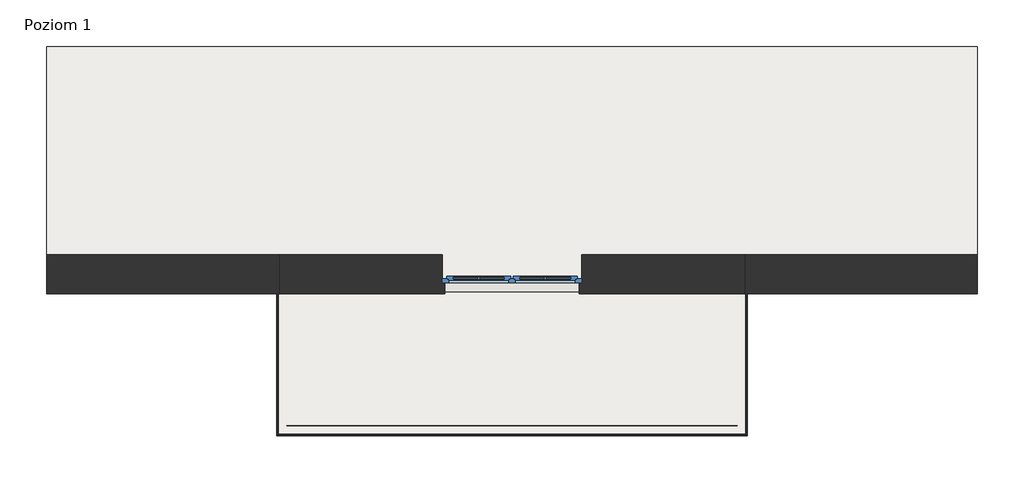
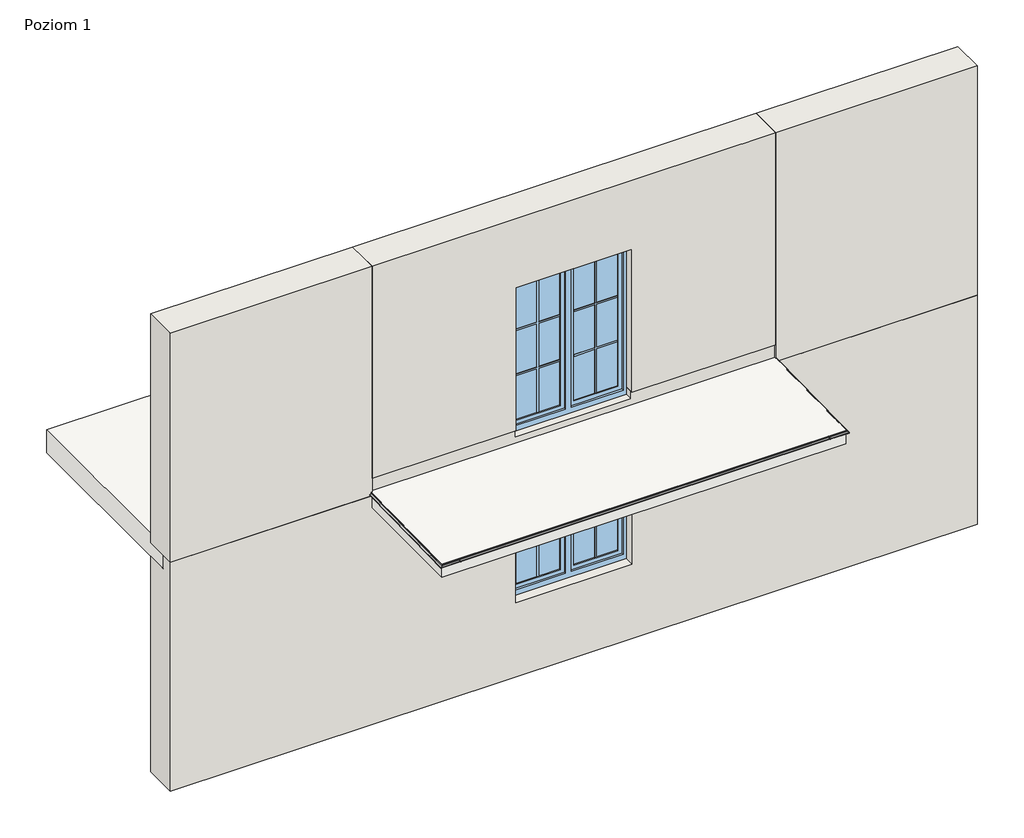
# One storey, part 1 of 4: 5 proxies, 5 walls, 3 slabs, 2 windows.
"""IFC4 building model written with IfcOpenShell, lengths in millimetres."""

from ifc_helpers import new_model, si_unit, origin, place, context, project, spatial, faceted_brep, transform, mapped, element, save
from components import generic_models_88e95f6f, generic_models_93ca83c9, k30_aa9466e5, k30_8c66ed92, k30_8aa74587, window_150x150_51b7f79a, window_150x200_12b14935

model = new_model("IFC4")

# Units and contexts
model_context = context("Model", 3, world=origin())
ifc_project = project(units=[si_unit("LENGTHUNIT", "METRE", prefix="MILLI")], contexts=[model_context])

# Site, building, storey
site = spatial("IfcSite", under=ifc_project)
building = spatial("IfcBuilding", under=site)
storey = spatial("IfcBuildingStorey", under=building, Name="Poziom 1", Elevation=0.0)

# Proxies
placement = place(None, origin())
generic_models_shape = generic_models_88e95f6f(model_context)
element("IfcBuildingElementProxy", 1, Name="Odbojnik przyścienny K30 : Odbojnik przyścienny K30", ObjectType="Odbojnik przyścienny K30 : Odbojnik przyścienny K30", at=placement, inside=storey, context=model_context, shape_type="MappedRepresentation", body=[
    mapped(generic_models_shape, transform((-107871.4787519, 54780.2706498, -102.8920951), x_axis=(0.0, -0.9998044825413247, -0.019773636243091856), y_axis=(1.0000000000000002, 0.0, 0.0), z_axis=(0.0, -0.01977363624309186, 0.9998044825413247))),
])
generic_models_2_shape = generic_models_93ca83c9(model_context)
element("IfcBuildingElementProxy", 2, Name="Odbojnik przyścienny K30 : Odbojnik przyścienny K30", ObjectType="Odbojnik przyścienny K30 : Odbojnik przyścienny K30", at=placement, inside=storey, context=model_context, shape_type="MappedRepresentation", body=[
    mapped(generic_models_2_shape, transform((-112898.2079317, 54781.1897285, -102.873918), x_axis=(0.0, -0.9998044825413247, -0.019773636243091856), y_axis=(1.0000000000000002, 0.0, 0.0), z_axis=(0.0, -0.01977363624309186, 0.9998044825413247))),
])
k30_shape = k30_aa9466e5(model_context)
element("IfcBuildingElementProxy", 3, Name="K30 Profil okapowy prosty : K30", ObjectType="K30 Profil okapowy prosty : K30", at=placement, inside=storey, context=model_context, shape_type="MappedRepresentation", body=[
    mapped(k30_shape, transform((-112894.8433418, 53271.9866735, -109.0), x_axis=(1.0, 0.0, 0.0), y_axis=(0.0, 0.9998044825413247, 0.01977363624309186), z_axis=(0.0, -0.01977363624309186, 0.9998044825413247))),
])
k30_2_shape = k30_8c66ed92(model_context)
element("IfcBuildingElementProxy", 4, Name="K30 Profil okapowy prosty : K30", ObjectType="K30 Profil okapowy prosty : K30", at=placement, inside=storey, context=model_context, shape_type="MappedRepresentation", body=[
    mapped(k30_2_shape, transform((-107874.8433418, 53491.9436597, -104.6498), x_axis=(0.0, 0.9998044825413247, 0.019773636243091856), y_axis=(-1.0000000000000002, 0.0, 0.0), z_axis=(0.0, -0.01977363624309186, 0.9998044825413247))),
])
k30_3_shape = k30_8aa74587(model_context)
element("IfcBuildingElementProxy", 5, Name="K30 Profil okapowy prosty : K30", ObjectType="K30 Profil okapowy prosty : K30", at=placement, inside=storey, context=model_context, shape_type="MappedRepresentation", body=[
    mapped(k30_3_shape, transform((-112894.8433418, 53491.9436597, -104.6498), x_axis=(0.0, 0.9998044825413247, 0.019773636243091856), y_axis=(-1.0000000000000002, 0.0, 0.0), z_axis=(0.0, -0.01977363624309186, 0.9998044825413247))),
])

# Slabs
element("IfcSlab", 6, ObjectType="Balkon - wykończenie - posadzka ceramiczna", at=placement, inside=storey, context=model_context, shape_type="Brep", body=[
    faceted_brep([(-112894.8433418, 53271.9866735, -125.0), (-112894.8433418, 53271.9866735, -109.0), (-112894.8433418, 54889.9866735, -77.0), (-112894.8433418, 54889.9866735, -93.0), (-112884.8433418, 54889.9866735, -77.0), (-107884.8433418, 54889.9866735, -77.0), (-107874.8433418, 54889.9866735, -77.0), (-107874.8433418, 54889.9866735, -93.0), (-107874.8433418, 53271.9866735, -125.0), (-107874.8433418, 53271.9866735, -109.0)], [[[0, 1, 2, 3]], [[3, 2, 4, 5, 6, 7]], [[8, 9, 1, 0]], [[7, 6, 9, 8]], [[9, 6, 5, 4, 2, 1]], [[8, 0, 3, 7]]]),
])
element("IfcSlab", 7, ObjectType="Balkon - konstrukcja", at=placement, inside=storey, context=model_context, shape_type="Brep", body=[
    faceted_brep([(-112884.8433418, 53281.9866735, -285.0), (-112884.8433418, 54781.9866735, -285.0), (-112884.8433418, 54889.9866735, -285.0), (-107884.8433418, 54889.9866735, -285.0), (-107884.8433418, 54781.9866735, -285.0), (-107884.8433418, 53281.9866735, -285.0), (-112884.8433418, 53281.9866735, -125.0), (-112884.8433418, 54889.9866735, -93.0), (-112884.8433418, 54889.9866735, -125.0), (-107884.8433418, 54889.9866735, -93.0), (-107884.8433418, 54889.9866735, -125.0), (-107884.8433418, 53281.9866735, -125.0)], [[[0, 1, 2, 3, 4, 5]], [[2, 1, 0, 6, 7, 8]], [[3, 2, 8, 7, 9, 10]], [[0, 5, 11, 6]], [[5, 4, 3, 10, 9, 11]], [[11, 9, 7, 6]]]),
])
element("IfcSlab", 8, ObjectType="Strop", at=placement, inside=storey, context=model_context, shape_type="Brep", body=[
    faceted_brep([(-105384.8433418, 54936.9866735, -300.0), (-115384.8433418, 54936.9866735, -300.0), (-115384.8433418, 55201.9866735, -300.0), (-115384.8433418, 57436.9866735, -300.0), (-105384.8433418, 57436.9866735, -300.0), (-105384.8433418, 55201.9866735, -300.0), (-105384.8433418, 54936.9866735, 0.0), (-105384.8433418, 57436.9866735, 0.0), (-115384.8433418, 57436.9866735, 0.0), (-115384.8433418, 54936.9866735, 0.0), (-112884.8433418, 54936.9866735, 0.0), (-111134.8433418, 54936.9866735, 0.0), (-109634.8433418, 54936.9866735, 0.0), (-107884.8433418, 54936.9866735, 0.0), (-105384.8433418, 54936.9866735, -125.0), (-115384.8433418, 54936.9866735, -125.0)], [[[0, 1, 2, 3, 4, 5]], [[6, 7, 8, 9, 10, 11, 12, 13]], [[1, 0, 14, 6, 13, 12, 11, 10, 9, 15]], [[3, 2, 1, 15, 9, 8]], [[4, 3, 8, 7]], [[0, 5, 4, 7, 6, 14]]]),
])

# Walls
element("IfcWall", 9, ObjectType="Porotherm P+W 25 + o15 + t", at=placement, inside=storey, context=model_context, shape_type="Brep", body=[
    faceted_brep([(-115384.8433418, 54781.9866735, -3125.0), (-105384.8433418, 54781.9866735, -3125.0), (-105384.8433418, 54781.9866735, -125.0), (-107884.8433418, 54781.9866735, -125.0), (-107884.8433418, 54781.9866735, -285.0), (-112884.8433418, 54781.9866735, -285.0), (-112884.8433418, 54781.9866735, -125.0), (-115384.8433418, 54781.9866735, -125.0), (-109664.8433418, 54781.9866735, -680.0), (-109664.8433418, 54781.9866735, -2150.0), (-111104.8433418, 54781.9866735, -2150.0), (-111104.8433418, 54781.9866735, -680.0), (-105384.8433418, 55201.9866735, -3125.0), (-115384.8433418, 55201.9866735, -3125.0), (-115384.8433418, 55201.9866735, -300.0), (-105384.8433418, 55201.9866735, -300.0), (-109634.8433418, 55201.9866735, -2150.0), (-109634.8433418, 55201.9866735, -650.0), (-111134.8433418, 55201.9866735, -650.0), (-111134.8433418, 55201.9866735, -2150.0), (-105384.8433418, 54936.9866735, -300.0), (-105384.8433418, 54936.9866735, -125.0), (-107884.8433418, 54936.9866735, -125.0), (-112884.8433418, 54936.9866735, -125.0), (-115384.8433418, 54936.9866735, -125.0), (-112884.8433418, 54889.9866735, -125.0), (-107884.8433418, 54889.9866735, -125.0), (-115384.8433418, 54936.9866735, -300.0), (-109634.8433418, 54901.9866735, -650.0), (-109634.8433418, 54901.9866735, -2150.0), (-109664.8433418, 54901.9866735, -680.0), (-109664.8433418, 54901.9866735, -2150.0), (-107884.8433418, 54889.9866735, -285.0), (-112884.8433418, 54889.9866735, -285.0), (-111134.8433418, 54901.9866735, -650.0), (-111134.8433418, 54901.9866735, -2150.0), (-111104.8433418, 54901.9866735, -2150.0), (-111104.8433418, 54901.9866735, -680.0)], [[[0, 1, 2, 3, 4, 5, 6, 7], [8, 9, 10, 11]], [[12, 13, 14, 15], [16, 17, 18, 19]], [[1, 0, 13, 12]], [[2, 1, 12, 15, 20, 21]], [[2, 21, 22, 23, 24, 7, 6, 25, 26, 3]], [[0, 7, 24, 27, 14, 13]], [[28, 17, 16, 29]], [[8, 30, 31, 9]], [[27, 20, 15, 14]], [[20, 27, 24, 23, 22, 21]], [[32, 33, 5, 4]], [[5, 33, 25, 6]], [[33, 32, 26, 25]], [[32, 4, 3, 26]], [[17, 28, 34, 18]], [[29, 16, 19, 35, 36, 10, 9, 31]], [[34, 28, 29, 31, 30, 37, 36, 35]], [[34, 35, 19, 18]], [[30, 8, 11, 37]], [[10, 36, 37, 11]]]),
])
element("IfcWall", 10, ObjectType="Porotherm P+W 25 + o15 + t", at=placement, inside=storey, context=model_context, shape_type="Brep", body=[
    faceted_brep([(-115384.8433418, 54781.9866735, -125.0), (-112884.8433418, 54781.9866735, -125.0), (-112884.8433418, 54781.9866735, 100.0), (-112884.8433418, 54781.9866735, 2875.0), (-115384.8433418, 54781.9866735, 2875.0), (-115384.8433418, 55201.9866735, -125.0), (-115384.8433418, 55201.9866735, 2875.0), (-112884.8433418, 55201.9866735, 2875.0), (-112884.8433418, 55201.9866735, 100.0), (-112884.8433418, 55201.9866735, 0.0), (-112884.8433418, 55201.9866735, -125.0), (-115384.8433418, 54936.9866735, -125.0), (-112884.8433418, 54936.9866735, -125.0), (-112884.8433418, 54889.9866735, -125.0)], [[[0, 1, 2, 3, 4]], [[5, 6, 7, 8, 9, 10]], [[1, 0, 11, 5, 10, 12, 13]], [[4, 3, 7, 6]], [[0, 4, 6, 5, 11]], [[1, 13, 12, 10, 9, 8, 7, 3, 2]]]),
])
element("IfcWall", 11, ObjectType="Porotherm P+W 25 + o15 + t", at=placement, inside=storey, context=model_context, shape_type="Brep", body=[
    faceted_brep([(-107884.8433418, 54781.9866735, 2875.0), (-107884.8433418, 54781.9866735, 100.0), (-107884.8433418, 54781.9866735, -125.0), (-105384.8433418, 54781.9866735, -125.0), (-105384.8433418, 54781.9866735, 2875.0), (-107884.8433418, 55201.9866735, -125.0), (-107884.8433418, 55201.9866735, 0.0), (-107884.8433418, 55201.9866735, 100.0), (-107884.8433418, 55201.9866735, 2875.0), (-105384.8433418, 55201.9866735, 2875.0), (-105384.8433418, 55201.9866735, -125.0), (-107884.8433418, 54889.9866735, -125.0), (-107884.8433418, 54936.9866735, -125.0), (-105384.8433418, 54936.9866735, -125.0)], [[[0, 1, 2, 3, 4]], [[5, 6, 7, 8, 9, 10]], [[3, 2, 11, 12, 5, 10, 13]], [[4, 3, 13, 10, 9]], [[0, 4, 9, 8]], [[0, 8, 7, 6, 5, 12, 11, 2, 1]]]),
])
element("IfcWall", 12, ObjectType="Porotherm P+W 25 + o12 + pł ceramiczne", at=placement, inside=storey, context=model_context, shape_type="Brep", body=[
    faceted_brep([(-107884.8433418, 54803.9866735, -78.7008653), (-107884.8433418, 54803.9866735, 100.0), (-109664.8433418, 54803.9866735, 100.0), (-109664.8433418, 54803.9866735, 0.0), (-111104.8433418, 54803.9866735, 0.0), (-111104.8433418, 54803.9866735, 100.0), (-112884.8433418, 54803.9866735, 100.0), (-112884.8433418, 54803.9866735, -78.7008653), (-112884.8433418, 55201.9866735, 0.0), (-112884.8433418, 55201.9866735, 100.0), (-111134.8433418, 55201.9866735, 100.0), (-111134.8433418, 55201.9866735, 0.0), (-107884.8433418, 55201.9866735, 100.0), (-107884.8433418, 55201.9866735, 0.0), (-109634.8433418, 55201.9866735, 0.0), (-109634.8433418, 55201.9866735, 100.0), (-112884.8433418, 54936.9866735, -125.0), (-107884.8433418, 54936.9866735, -125.0), (-107884.8433418, 54889.9866735, -125.0), (-112884.8433418, 54889.9866735, -125.0), (-107884.8433418, 54889.9866735, -77.0), (-107884.8433418, 54889.9866735, -93.0), (-107884.8433418, 54936.9866735, 0.0), (-109634.8433418, 54901.9866735, 100.0), (-109664.8433418, 54901.9866735, 100.0), (-111104.8433418, 54901.9866735, 100.0), (-111134.8433418, 54901.9866735, 100.0), (-112884.8433418, 54936.9866735, 0.0), (-112884.8433418, 54889.9866735, -93.0), (-112884.8433418, 54889.9866735, -77.0), (-111134.8433418, 54936.9866735, 0.0), (-109634.8433418, 54936.9866735, 0.0), (-111134.8433418, 54901.9866735, 0.0), (-111104.8433418, 54901.9866735, 0.0), (-109664.8433418, 54901.9866735, 0.0), (-109634.8433418, 54901.9866735, 0.0)], [[[0, 1, 2, 3, 4, 5, 6, 7]], [[8, 9, 10, 11]], [[12, 13, 14, 15]], [[16, 17, 18, 19]], [[12, 1, 0, 20, 21, 18, 17, 22, 13]], [[1, 12, 15, 23, 24, 2]], [[9, 6, 5, 25, 26, 10]], [[6, 9, 8, 27, 16, 19, 28, 29, 7]], [[8, 11, 30, 27]], [[13, 22, 31, 14]], [[17, 16, 27, 30, 31, 22]], [[20, 29, 28, 19, 18, 21]], [[29, 20, 0, 7]], [[32, 33, 4, 3, 34, 35, 31, 30]], [[33, 32, 26, 25]], [[35, 34, 24, 23]], [[35, 23, 15, 14, 31]], [[26, 32, 30, 11, 10]], [[34, 3, 2, 24]], [[4, 33, 25, 5]]]),
])
element("IfcWall", 13, ObjectType="Porotherm P+W 25 + o15 + t", at=placement, inside=storey, context=model_context, shape_type="Brep", body=[
    faceted_brep([(-107884.8433418, 54781.9866735, 100.0), (-107884.8433418, 54781.9866735, 2875.0), (-112884.8433418, 54781.9866735, 2875.0), (-112884.8433418, 54781.9866735, 100.0), (-111104.8433418, 54781.9866735, 100.0), (-111104.8433418, 54781.9866735, 1970.0), (-109664.8433418, 54781.9866735, 1970.0), (-109664.8433418, 54781.9866735, 100.0), (-107884.8433418, 55201.9866735, 2875.0), (-107884.8433418, 55201.9866735, 100.0), (-109634.8433418, 55201.9866735, 100.0), (-109634.8433418, 55201.9866735, 2000.0), (-111134.8433418, 55201.9866735, 2000.0), (-111134.8433418, 55201.9866735, 100.0), (-112884.8433418, 55201.9866735, 100.0), (-112884.8433418, 55201.9866735, 2875.0), (-112884.8433418, 54803.9866735, 100.0), (-111134.8433418, 54901.9866735, 100.0), (-111104.8433418, 54901.9866735, 100.0), (-111104.8433418, 54803.9866735, 100.0), (-107884.8433418, 54803.9866735, 100.0), (-109664.8433418, 54803.9866735, 100.0), (-109664.8433418, 54901.9866735, 100.0), (-109634.8433418, 54901.9866735, 100.0), (-109634.8433418, 54901.9866735, 2000.0), (-109664.8433418, 54901.9866735, 1970.0), (-111134.8433418, 54901.9866735, 2000.0), (-111104.8433418, 54901.9866735, 1970.0)], [[[0, 1, 2, 3, 4, 5, 6, 7]], [[8, 9, 10, 11, 12, 13, 14, 15]], [[3, 16, 14, 13, 17, 18, 19, 4]], [[9, 20, 0, 7, 21, 22, 23, 10]], [[1, 0, 20, 9, 8]], [[2, 1, 8, 15]], [[3, 2, 15, 14, 16]], [[24, 11, 10, 23]], [[6, 25, 22, 21, 7]], [[26, 12, 11, 24]], [[26, 24, 23, 22, 25, 27, 18, 17]], [[12, 26, 17, 13]], [[27, 25, 6, 5]], [[27, 5, 4, 19, 18]]]),
])

# Windows
window_150x150_shape = window_150x150_51b7f79a(model_context)
element("IfcWindow", 14, ObjectType="OKNO_2X_W_SZ : 150x150", at=placement, inside=storey, context=model_context, shape_type="MappedRepresentation", body=[
    mapped(window_150x150_shape, transform((-110384.8433418, 54991.9866735, -3000.0), x_axis=(-1.0, 0.0, 0.0), y_axis=(0.0, -1.0, 0.0), z_axis=(0.0, 0.0, 1.0))),
])
window_150x200_shape = window_150x200_12b14935(model_context)
element("IfcWindow", 15, ObjectType="OKNO_2X_W_SZ : 150x200", at=placement, inside=storey, context=model_context, shape_type="MappedRepresentation", body=[
    mapped(window_150x200_shape, transform((-110384.8433418, 54991.9866735, -850.0), x_axis=(-1.0, 0.0, 0.0), y_axis=(0.0, -1.0, 0.0), z_axis=(0.0, 0.0, 1.0))),
])

save(model, "model.ifc")
